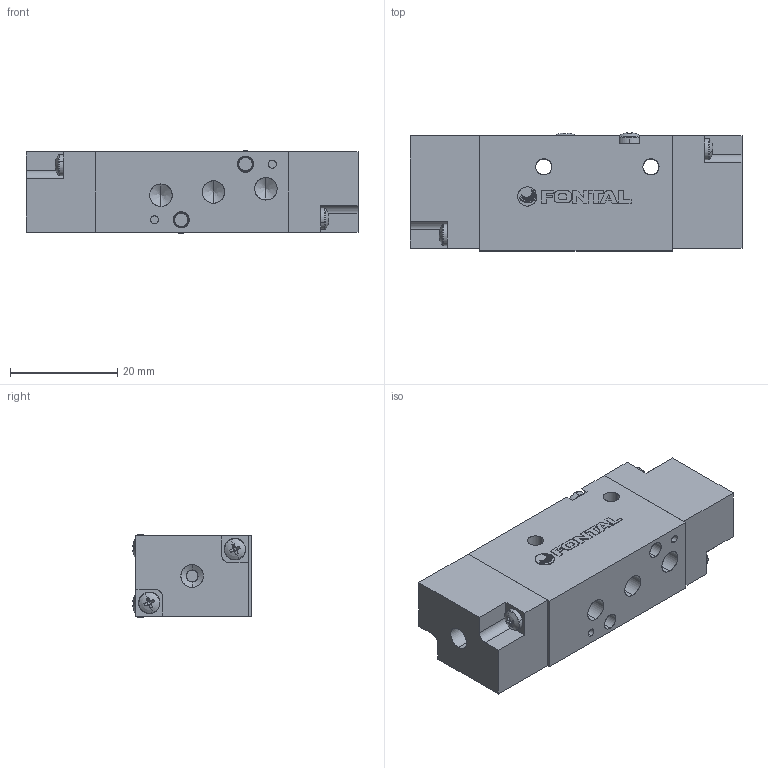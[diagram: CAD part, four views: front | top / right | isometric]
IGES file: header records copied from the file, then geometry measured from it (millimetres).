
Start section: SolidWorks IGES file using analytic representation for surfaces
Global section: file name: D:\Custom\3D繪製\VC\YC5\YCD345-M5.IGS, ; native system: SolidWorks 2014; preprocessor: SolidWorks 2014; author: Chieh_Lu; date: 160114.021641; units: millimetre
Bounding box: 62 x 22.05 x 15.4 mm (x, y, z)
Surface area: 9260.7 mm2 (no closed solid volume)
Topology: 0 solids, 0 shells, 442 faces, 4028 edges, 4006 vertices
Faces by surface type: bspline 265, revolution 177
